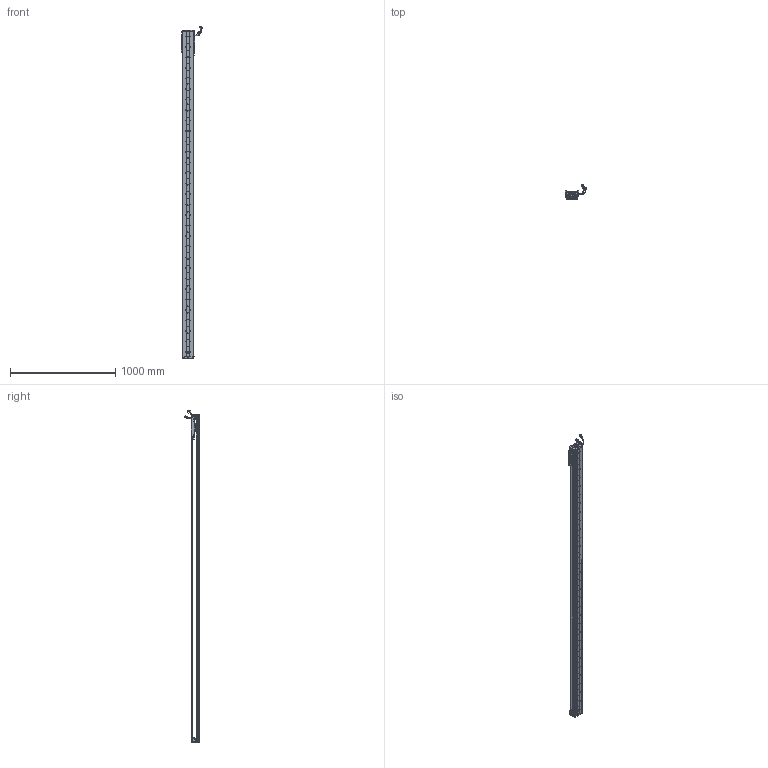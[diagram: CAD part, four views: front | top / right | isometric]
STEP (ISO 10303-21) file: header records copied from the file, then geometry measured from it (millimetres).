
FILE_DESCRIPTION (( 'STEP AP203' ), '1' );
FILE_NAME ('Z2-RY100D-1-L500-B-K.SLDASM_2850.step', '2021-05-17T02:38:34', ( '盈信电脑' ), ( '东莞市道滘镇水果街19号' ), 'SwSTEP 2.0', 'SolidWorks 2016', '' );
FILE_SCHEMA (( 'CONFIG_CONTROL_DESIGN' ));
Length unit declared in the file: millimetre
Products named in the file (36): SCREW-M1.6-2; COVER; Z-RY100D覜茼んえ; SCALE-Part-1; PBU_SHEET; LABEL-Part-1; Z-RY100D詩湍奻揤裔; SEAL; HARNESS-Part-2; 覜茼ん672; Z-RY100D詩湍狟揤裔; 100-Z-臏賑輸盄裔(21遴); SCALE-Part-2; SCREW-M1.7; 140蚥薯蝶輸; SCREW-M1.7-1; 080黍杅芛假蚾釱21遴; HARNESS-Part-1; SCREW-M1.6-3; COVER-Part-1; 榋妏寠巭燃_暯_M2_2; SCALE; Z-100詩湍傷裔啣; LABEL; SCREW-M1.6-1; Z2-RY100D-1-L500-B-K.SLDASM_2850; HOLDER0; Z2-RY100-L500詩湍90mm遵_2850; Z2-RY100D-500-倰第菁釱_2850; SEAL-Part-1; 140雄赽晤鎢ん堤盄; PSLH080_PSLF2; SCREW-M1.6; SHIELDPLATE; Z2-RY100铝滑块（21款）; HARNESS
Assembly tree (43 placements, depth 4):
  Z2-RY100D-1-L500-B-K.SLDASM_2850
    Z2-RY100D-500-倰第菁釱_2850
    Z2-RY100铝滑块（21款）
    PSLH080_PSLF2
      SCALE
        SCALE-Part-1
        SCALE-Part-2
      HARNESS
        HARNESS-Part-1
        HARNESS-Part-2
      LABEL
        LABEL-Part-1
      COVER
        COVER-Part-1
      SEAL
        SEAL-Part-1
      榋妏寠巭燃_暯_M2_2
      SHIELDPLATE
      SCREW-M1.7
      SCREW-M1.7-1
      PBU_SHEET
      SCREW-M1.6
      SCREW-M1.6-1
      SCREW-M1.6-2
      SCREW-M1.6-3
      HOLDER0
    080黍杅芛假蚾釱21遴
    Z-100詩湍傷裔啣  x2
    140蚥薯蝶輸  x2
    覜茼ん672  x3
    Z-RY100D覜茼んえ  x3
    100-Z-臏賑輸盄裔(21遴)
    140雄赽晤鎢ん堤盄
    Z2-RY100-L500詩湍90mm遵_2850
    Z-RY100D詩湍狟揤裔  x2
    Z-RY100D詩湍奻揤裔  x2
Bounding box: 205.79 x 136.11 x 3155.43 mm (x, y, z)
Volume: 5570260.3 mm3; surface area: 2218796.7 mm2
Topology: 38 solids, 38 shells, 3116 faces, 8595 edges, 5504 vertices
Faces by surface type: cylinder 1574, plane 1202, cone 218, torus 69, bspline 53
Entity records: 91679 total; most frequent: CARTESIAN_POINT 19204, DIRECTION 14827, ORIENTED_EDGE 14086, EDGE_CURVE 7043, AXIS2_PLACEMENT_3D 5599, VERTEX_POINT 4572, VECTOR 3629, LINE 3629
